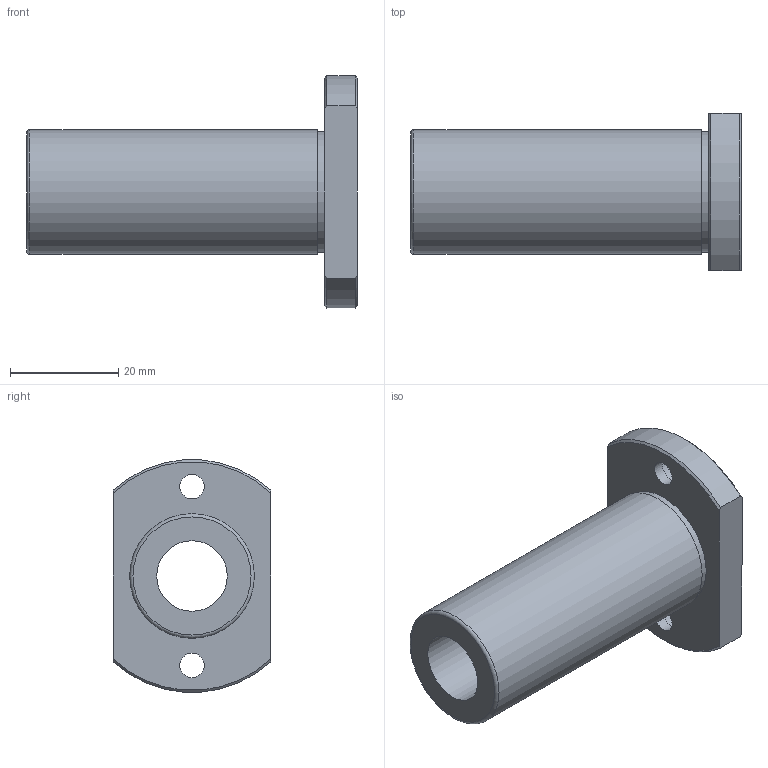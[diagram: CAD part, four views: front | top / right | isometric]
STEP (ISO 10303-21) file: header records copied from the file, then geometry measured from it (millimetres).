
FILE_DESCRIPTION(('STEP AP203'),'1');
FILE_NAME('//192.168.1.1/share/s-4 技術開発/s-4-4_CAD/s-4-4-3_見直し済み/002 修正済み/NFEO-VL(済)/NFEO-VL_TOP/NFEO-13VLUU.step','2022-03-08T01:33:05',(' '),(' '),'Spatial InterOp 3D',' ',' ');
FILE_SCHEMA(('CONFIG_CONTROL_DESIGN'));
Length unit declared in the file: millimetre
Products named in the file (1): 1
Bounding box: 61 x 29 x 42.85 mm (x, y, z)
Volume: 21149.1 mm3; surface area: 9432.8 mm2
Topology: 1 solids, 1 shells, 22 faces, 49 edges, 33 vertices
Faces by surface type: cylinder 9, plane 8, cone 4, torus 1
Full cylindrical faces by diameter (mm): 4.5 x2, 7.5 x2, 13 x1, 22.3 x1, 23 x1
Entity records: 630 total; most frequent: CARTESIAN_POINT 117, DIRECTION 100, ORIENTED_EDGE 78, AXIS2_PLACEMENT_3D 46, EDGE_LOOP 40, EDGE_CURVE 39, VERTEX_POINT 31, FACE_OUTER_BOUND 30
